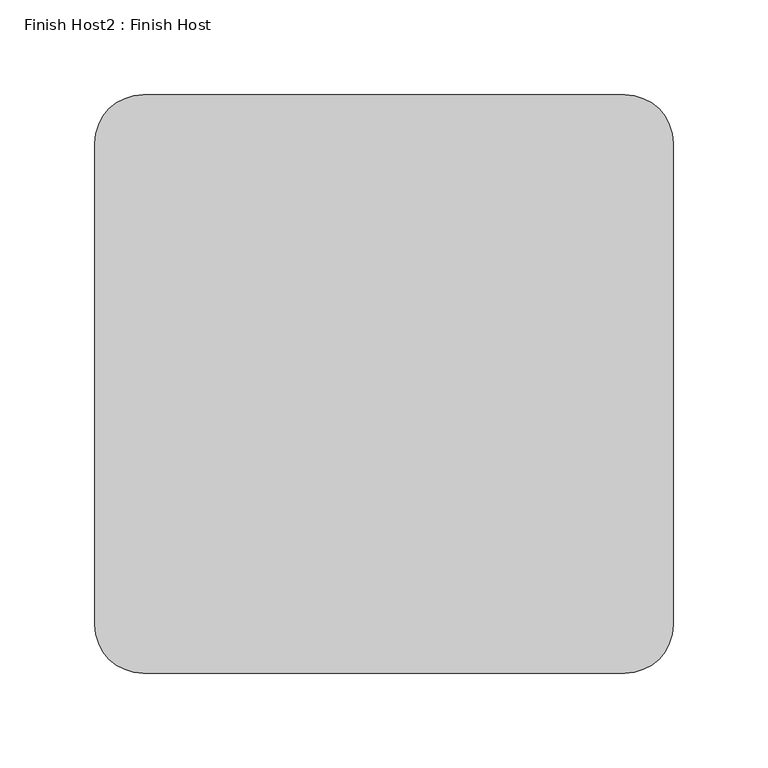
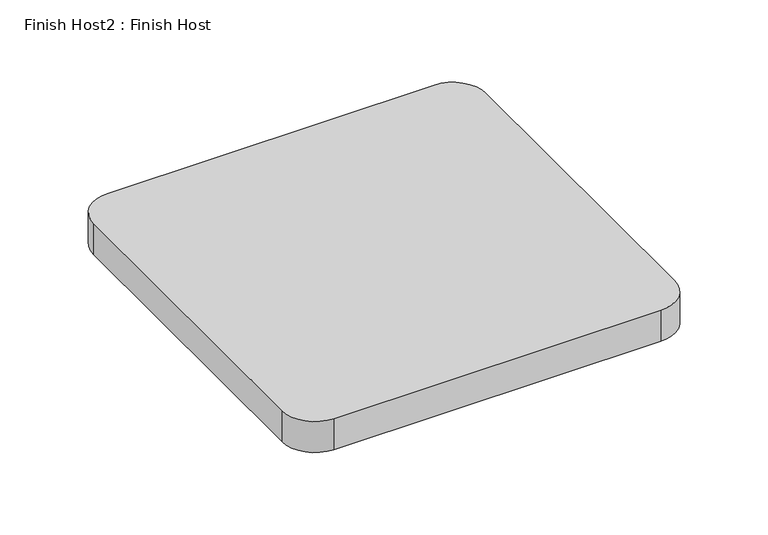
"""IFC4 building model written with IfcOpenShell, lengths in millimetres: proxy geometry, Finish Host2 : Finish Host."""

from ifc_helpers import new_model, si_unit, point, frame_2d, origin, origin_with_axes, place, context, project, spatial, polyline, circle_curve, trimmed, segment, composite_curve, outline, extrude, source, transform, mapped, element, save


def finish_host2_finish_host_9f574f8e(model_context):
    return source(origin(), model_context, "Body", "SweptSolid", [
        extrude(outline(composite_curve([segment(polyline([(1799.7649374, 3242.5667263), (1799.7649374, 3496.5667263)]), True, "CONTINUOUS"), segment(trimmed(circle_curve(frame_2d((1825.1649374, 3496.5667263)), 25.4), [point((1799.7649374, 3496.5667263))], [point((1825.1649374, 3521.9667263))], False, "CARTESIAN"), True, "CONTINUOUS"), segment(polyline([(1825.1649374, 3521.9667263), (2079.1649374, 3521.9667263)]), True, "CONTINUOUS"), segment(trimmed(circle_curve(frame_2d((2079.1649374, 3496.5667263)), 25.4), [point((2079.1649374, 3521.9667263))], [point((2104.5649374, 3496.5667263))], False, "CARTESIAN"), True, "CONTINUOUS"), segment(polyline([(2104.5649374, 3496.5667263), (2104.5649374, 3242.5667263)]), True, "CONTINUOUS"), segment(trimmed(circle_curve(frame_2d((2079.1649374, 3242.5667263)), 25.4), [point((2104.5649374, 3242.5667263))], [point((2079.1649374, 3217.1667263))], False, "CARTESIAN"), True, "CONTINUOUS"), segment(polyline([(2079.1649374, 3217.1667263), (1825.1649374, 3217.1667263)]), True, "CONTINUOUS"), segment(trimmed(circle_curve(frame_2d((1825.1649374, 3242.5667263)), 25.4), [point((1825.1649374, 3217.1667263))], [point((1799.7649374, 3242.5667263))], False, "CARTESIAN"), True, "CONTINUOUS")], self_intersect=False)), origin_with_axes(), (0.0, 0.0, 1.0), 25.4),
    ])


if __name__ == "__main__":
    model = new_model("IFC4")
    model_context = context("Model", 3, world=origin())
    ifc_project = project(units=[si_unit("LENGTHUNIT", "METRE", prefix="MILLI")], contexts=[model_context])
    site = spatial("IfcSite", under=ifc_project)
    building = spatial("IfcBuilding", under=site)
    placement = place(None, origin())
    finish_host2_finish_host_shape = finish_host2_finish_host_9f574f8e(model_context)
    element("IfcBuildingElementProxy", 1, Name="Finish Host2 : Finish Host", ObjectType="Finish Host2 : Finish Host", at=placement, inside=building, context=model_context, shape_type="MappedRepresentation", body=[
        mapped(finish_host2_finish_host_shape, transform((0.0, 0.0, 0.0), x_axis=(1.0, 0.0, 0.0), y_axis=(0.0, 1.0, 0.0), z_axis=(0.0, 0.0, 1.0))),
    ])
    save(model, "model.ifc")
